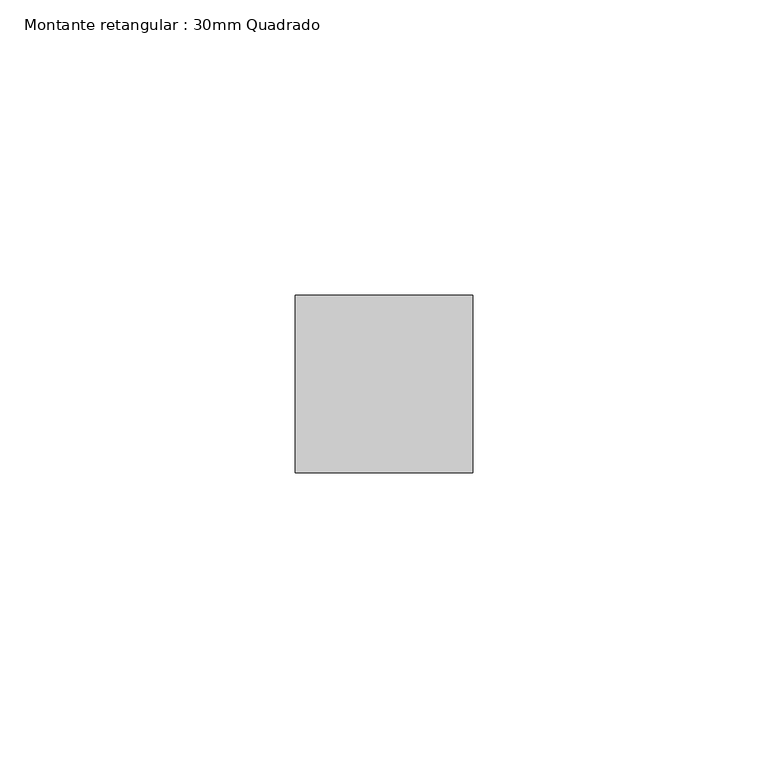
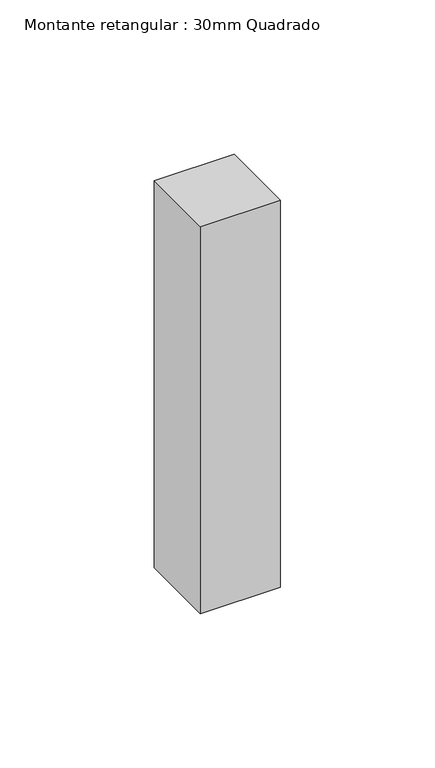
"""IFC4 building model written with IfcOpenShell, lengths in millimetres: member geometry, Montante retangular : 30mm Quadrado."""

from ifc_helpers import new_model, si_unit, frame, origin, place, context, project, spatial, polyline, outline, extrude, source, transform, mapped, element, save


def montante_retangular_30mm_quadrado_d90e5050(model_context):
    return source(origin(), model_context, "Body", "SweptSolid", [
        extrude(outline(polyline([(0.0, 15.0), (0.0, -15.0), (-30.0, -15.0), (-30.0, 15.0), (0.0, 15.0)])), frame((0.0, 0.0, -153.3905751), z_axis=(0.0, 0.0, 1.0), x_axis=(1.0, 0.0, 0.0)), (0.0, 0.0, 1.0), 153.3905751),
    ])


if __name__ == "__main__":
    model = new_model("IFC4")
    model_context = context("Model", 3, world=origin())
    ifc_project = project(units=[si_unit("LENGTHUNIT", "METRE", prefix="MILLI")], contexts=[model_context])
    site = spatial("IfcSite", under=ifc_project)
    building = spatial("IfcBuilding", under=site)
    placement = place(None, origin())
    montante_retangular_30mm_quadrado_shape = montante_retangular_30mm_quadrado_d90e5050(model_context)
    element("IfcMember", 1, ObjectType="Montante retangular : 30mm Quadrado", at=placement, inside=building, context=model_context, shape_type="MappedRepresentation", body=[
        mapped(montante_retangular_30mm_quadrado_shape, transform((0.0, 0.0, 0.0), x_axis=(1.0, 0.0, 0.0), y_axis=(0.0, 1.0, 0.0), z_axis=(0.0, 0.0, 1.0))),
    ])
    save(model, "model.ifc")
